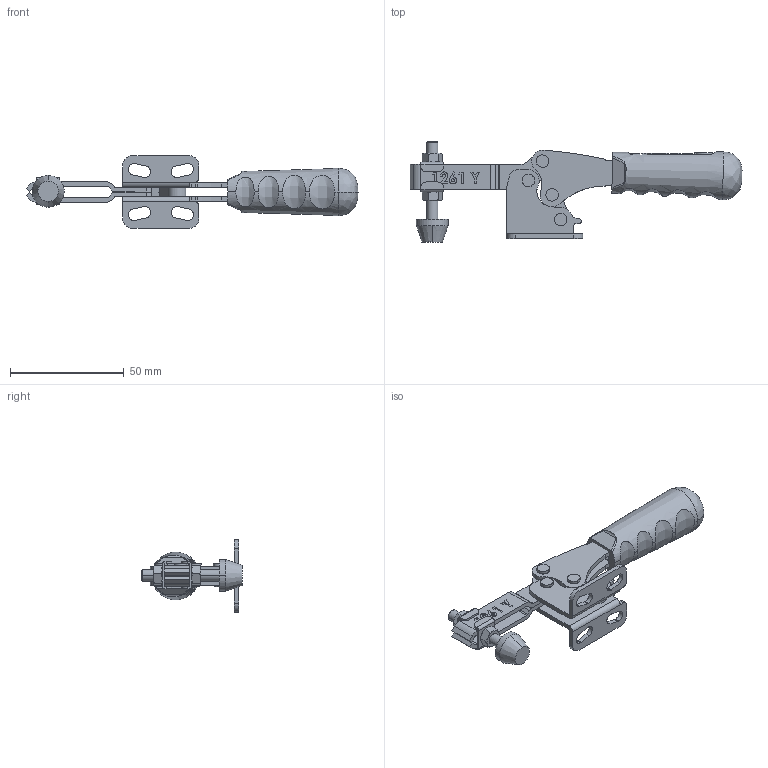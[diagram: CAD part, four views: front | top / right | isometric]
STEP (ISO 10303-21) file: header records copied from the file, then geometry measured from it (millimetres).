
FILE_DESCRIPTION (( 'STEP AP203' ), '1' );
FILE_NAME ('1261_Y.STEP', '2023-01-06T06:27:33', ( '' ), ( '' ), 'SwSTEP 2.0', 'SolidWorks 2023', '' );
FILE_SCHEMA (( 'CONFIG_CONTROL_DESIGN' ));
Length unit declared in the file: millimetre
Products named in the file (15): 1261 Y-D Gövde; 1261_MAFSAL; 3_5x10_5_PERÇİN; 1261_Y; Aynalama1261_BASKI_KOLU; BAĞLANTILAR; 1261_BASKI_KOLU; M5 Askı; M5_BASKI_GRUBU^1261_Y_MONTAJ; C55_Yeni_Tutamak; Aynalama1261_HAREKET_KOLU_R01; 1261_HAREKET_KOLU_R01; M5 Somun; M5 Baskı; Aynalama1261 Y-D Gövde
Assembly tree (19 placements, depth 3):
  1261_Y
    1261 Y-D Gövde
    1261_HAREKET_KOLU_R01
    1261_MAFSAL
    1261_BASKI_KOLU
    C55_Yeni_Tutamak
    Aynalama1261 Y-D Gövde
    Aynalama1261_HAREKET_KOLU_R01
    BAĞLANTILAR
      3_5x10_5_PERÇİN  x4
    M5_BASKI_GRUBU^1261_Y_MONTAJ
      M5 Askı  x2
      M5 Baskı
      M5 Somun  x2
    Aynalama1261_BASKI_KOLU
Bounding box: 146.02 x 44 x 31.8 mm (x, y, z)
Volume: 27187.4 mm3; surface area: 22739.4 mm2
Topology: 17 solids, 17 shells, 705 faces, 1848 edges, 1202 vertices
Faces by surface type: plane 408, cylinder 223, bspline 52, cone 22
Entity records: 19083 total; most frequent: CARTESIAN_POINT 4731, ORIENTED_EDGE 2664, DIRECTION 2594, EDGE_CURVE 1332, VERTEX_POINT 876, VECTOR 868, LINE 868, AXIS2_PLACEMENT_3D 863
